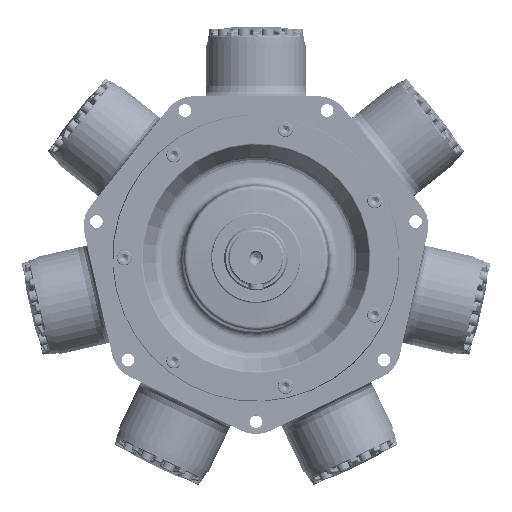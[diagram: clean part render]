
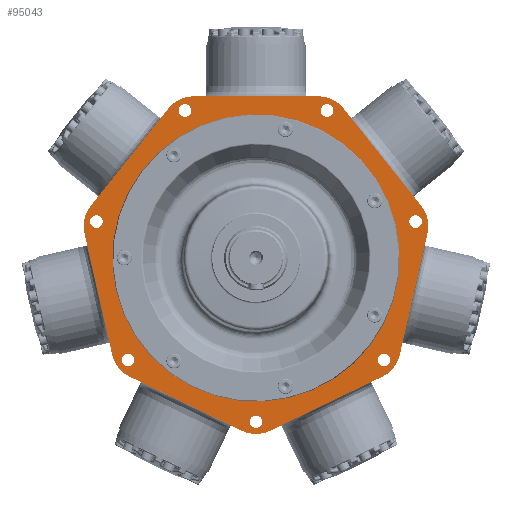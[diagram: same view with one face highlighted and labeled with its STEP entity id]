
A CAD part, top view. The second image highlights one B-rep face of the part: STEP entity #95043.
In plain terms, the highlighted planar face has unit normal (0, 0, 1).
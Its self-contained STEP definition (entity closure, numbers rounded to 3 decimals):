
#9211=FACE_BOUND('',#18440,.T.);
#9212=FACE_BOUND('',#18441,.T.);
#9213=FACE_BOUND('',#18442,.T.);
#9214=FACE_BOUND('',#18443,.T.);
#9215=FACE_BOUND('',#18444,.T.);
#9216=FACE_BOUND('',#18445,.T.);
#9217=FACE_BOUND('',#18446,.T.);
#9218=FACE_BOUND('',#18447,.T.);
#9539=PLANE('',#101121);
#12394=FACE_OUTER_BOUND('',#18439,.T.);
#18439=EDGE_LOOP('',(#60335,#60336,#60337,#60338,#60339,#60340,#60341,#60342,
#60343,#60344,#60345,#60346,#60347,#60348));
#18440=EDGE_LOOP('',(#60349));
#18441=EDGE_LOOP('',(#60350));
#18442=EDGE_LOOP('',(#60351));
#18443=EDGE_LOOP('',(#60352));
#18444=EDGE_LOOP('',(#60353));
#18445=EDGE_LOOP('',(#60354));
#18446=EDGE_LOOP('',(#60355));
#18447=EDGE_LOOP('',(#60356));
#24799=LINE('',#129394,#29279);
#24800=LINE('',#129398,#29280);
#24801=LINE('',#129402,#29281);
#24802=LINE('',#129406,#29282);
#24803=LINE('',#129410,#29283);
#24804=LINE('',#129414,#29284);
#24805=LINE('',#129418,#29285);
#29279=VECTOR('',#109047,10.);
#29280=VECTOR('',#109050,10.);
#29281=VECTOR('',#109053,10.);
#29282=VECTOR('',#109056,10.);
#29283=VECTOR('',#109059,10.);
#29284=VECTOR('',#109062,10.);
#29285=VECTOR('',#109065,10.);
#33752=CIRCLE('',#101122,50.8);
#33753=CIRCLE('',#101123,50.8);
#33754=CIRCLE('',#101124,50.8);
#33755=CIRCLE('',#101125,50.8);
#33756=CIRCLE('',#101126,50.8);
#33757=CIRCLE('',#101127,50.8);
#33758=CIRCLE('',#101128,50.8);
#33759=CIRCLE('',#101129,10.);
#33760=CIRCLE('',#101130,10.);
#33761=CIRCLE('',#101131,10.);
#33762=CIRCLE('',#101132,10.);
#33763=CIRCLE('',#101133,10.);
#33764=CIRCLE('',#101134,10.);
#33765=CIRCLE('',#101135,10.);
#33766=CIRCLE('',#101136,228.555);
#37441=VERTEX_POINT('',#129392);
#37442=VERTEX_POINT('',#129393);
#37443=VERTEX_POINT('',#129395);
#37444=VERTEX_POINT('',#129397);
#37445=VERTEX_POINT('',#129399);
#37446=VERTEX_POINT('',#129401);
#37447=VERTEX_POINT('',#129403);
#37448=VERTEX_POINT('',#129405);
#37449=VERTEX_POINT('',#129407);
#37450=VERTEX_POINT('',#129409);
#37451=VERTEX_POINT('',#129411);
#37452=VERTEX_POINT('',#129413);
#37453=VERTEX_POINT('',#129415);
#37454=VERTEX_POINT('',#129417);
#37455=VERTEX_POINT('',#129420);
#37456=VERTEX_POINT('',#129422);
#37457=VERTEX_POINT('',#129424);
#37458=VERTEX_POINT('',#129426);
#37459=VERTEX_POINT('',#129428);
#37460=VERTEX_POINT('',#129430);
#37461=VERTEX_POINT('',#129432);
#37462=VERTEX_POINT('',#129434);
#46018=EDGE_CURVE('',#37441,#37442,#24799,.T.);
#46019=EDGE_CURVE('',#37443,#37441,#33752,.T.);
#46020=EDGE_CURVE('',#37444,#37443,#24800,.T.);
#46021=EDGE_CURVE('',#37445,#37444,#33753,.T.);
#46022=EDGE_CURVE('',#37446,#37445,#24801,.T.);
#46023=EDGE_CURVE('',#37447,#37446,#33754,.T.);
#46024=EDGE_CURVE('',#37448,#37447,#24802,.T.);
#46025=EDGE_CURVE('',#37449,#37448,#33755,.T.);
#46026=EDGE_CURVE('',#37450,#37449,#24803,.T.);
#46027=EDGE_CURVE('',#37451,#37450,#33756,.T.);
#46028=EDGE_CURVE('',#37452,#37451,#24804,.T.);
#46029=EDGE_CURVE('',#37453,#37452,#33757,.T.);
#46030=EDGE_CURVE('',#37454,#37453,#24805,.T.);
#46031=EDGE_CURVE('',#37442,#37454,#33758,.T.);
#46032=EDGE_CURVE('',#37455,#37455,#33759,.T.);
#46033=EDGE_CURVE('',#37456,#37456,#33760,.T.);
#46034=EDGE_CURVE('',#37457,#37457,#33761,.T.);
#46035=EDGE_CURVE('',#37458,#37458,#33762,.T.);
#46036=EDGE_CURVE('',#37459,#37459,#33763,.T.);
#46037=EDGE_CURVE('',#37460,#37460,#33764,.T.);
#46038=EDGE_CURVE('',#37461,#37461,#33765,.T.);
#46039=EDGE_CURVE('',#37462,#37462,#33766,.T.);
#60335=ORIENTED_EDGE('',*,*,#46018,.F.);
#60336=ORIENTED_EDGE('',*,*,#46019,.F.);
#60337=ORIENTED_EDGE('',*,*,#46020,.F.);
#60338=ORIENTED_EDGE('',*,*,#46021,.F.);
#60339=ORIENTED_EDGE('',*,*,#46022,.F.);
#60340=ORIENTED_EDGE('',*,*,#46023,.F.);
#60341=ORIENTED_EDGE('',*,*,#46024,.F.);
#60342=ORIENTED_EDGE('',*,*,#46025,.F.);
#60343=ORIENTED_EDGE('',*,*,#46026,.F.);
#60344=ORIENTED_EDGE('',*,*,#46027,.F.);
#60345=ORIENTED_EDGE('',*,*,#46028,.F.);
#60346=ORIENTED_EDGE('',*,*,#46029,.F.);
#60347=ORIENTED_EDGE('',*,*,#46030,.F.);
#60348=ORIENTED_EDGE('',*,*,#46031,.F.);
#60349=ORIENTED_EDGE('',*,*,#46032,.T.);
#60350=ORIENTED_EDGE('',*,*,#46033,.T.);
#60351=ORIENTED_EDGE('',*,*,#46034,.T.);
#60352=ORIENTED_EDGE('',*,*,#46035,.T.);
#60353=ORIENTED_EDGE('',*,*,#46036,.T.);
#60354=ORIENTED_EDGE('',*,*,#46037,.T.);
#60355=ORIENTED_EDGE('',*,*,#46038,.T.);
#60356=ORIENTED_EDGE('',*,*,#46039,.F.);
#95043=ADVANCED_FACE('',(#12394,#9211,#9212,#9213,#9214,#9215,#9216,#9217,
#9218),#9539,.F.);
#101121=AXIS2_PLACEMENT_3D('',#129391,#109045,#109046);
#101122=AXIS2_PLACEMENT_3D('',#129396,#109048,#109049);
#101123=AXIS2_PLACEMENT_3D('',#129400,#109051,#109052);
#101124=AXIS2_PLACEMENT_3D('',#129404,#109054,#109055);
#101125=AXIS2_PLACEMENT_3D('',#129408,#109057,#109058);
#101126=AXIS2_PLACEMENT_3D('',#129412,#109060,#109061);
#101127=AXIS2_PLACEMENT_3D('',#129416,#109063,#109064);
#101128=AXIS2_PLACEMENT_3D('',#129419,#109066,#109067);
#101129=AXIS2_PLACEMENT_3D('',#129421,#109068,#109069);
#101130=AXIS2_PLACEMENT_3D('',#129423,#109070,#109071);
#101131=AXIS2_PLACEMENT_3D('',#129425,#109072,#109073);
#101132=AXIS2_PLACEMENT_3D('',#129427,#109074,#109075);
#101133=AXIS2_PLACEMENT_3D('',#129429,#109076,#109077);
#101134=AXIS2_PLACEMENT_3D('',#129431,#109078,#109079);
#101135=AXIS2_PLACEMENT_3D('',#129433,#109080,#109081);
#101136=AXIS2_PLACEMENT_3D('',#129435,#109082,#109083);
#109045=DIRECTION('center_axis',(0.,0.,-1.));
#109046=DIRECTION('ref_axis',(-1.,0.,0.));
#109047=DIRECTION('',(0.623,0.782,0.));
#109048=DIRECTION('center_axis',(0.,0.,-1.));
#109049=DIRECTION('ref_axis',(-0.975,-0.223,0.));
#109050=DIRECTION('',(-0.223,0.975,0.));
#109051=DIRECTION('center_axis',(0.,0.,-1.));
#109052=DIRECTION('ref_axis',(-0.434,-0.901,0.));
#109053=DIRECTION('',(-0.901,0.434,0.));
#109054=DIRECTION('center_axis',(0.,0.,-1.));
#109055=DIRECTION('ref_axis',(0.434,-0.901,0.));
#109056=DIRECTION('',(-0.901,-0.434,0.));
#109057=DIRECTION('center_axis',(0.,0.,-1.));
#109058=DIRECTION('ref_axis',(0.975,-0.223,0.));
#109059=DIRECTION('',(-0.223,-0.975,0.));
#109060=DIRECTION('center_axis',(0.,0.,-1.));
#109061=DIRECTION('ref_axis',(0.782,0.623,0.));
#109062=DIRECTION('',(0.623,-0.782,0.));
#109063=DIRECTION('center_axis',(0.,0.,-1.));
#109064=DIRECTION('ref_axis',(0.,1.,0.));
#109065=DIRECTION('',(1.,0.,0.));
#109066=DIRECTION('center_axis',(0.,0.,-1.));
#109067=DIRECTION('ref_axis',(-0.782,0.623,0.));
#109068=DIRECTION('center_axis',(0.,0.,-1.));
#109069=DIRECTION('ref_axis',(1.,0.,0.));
#109070=DIRECTION('center_axis',(0.,0.,-1.));
#109071=DIRECTION('ref_axis',(1.,0.,0.));
#109072=DIRECTION('center_axis',(0.,0.,-1.));
#109073=DIRECTION('ref_axis',(1.,0.,0.));
#109074=DIRECTION('center_axis',(0.,0.,-1.));
#109075=DIRECTION('ref_axis',(1.,0.,0.));
#109076=DIRECTION('center_axis',(0.,0.,-1.));
#109077=DIRECTION('ref_axis',(1.,0.,0.));
#109078=DIRECTION('center_axis',(0.,0.,-1.));
#109079=DIRECTION('ref_axis',(1.,0.,0.));
#109080=DIRECTION('center_axis',(0.,0.,-1.));
#109081=DIRECTION('ref_axis',(1.,0.,0.));
#109082=DIRECTION('center_axis',(0.,0.,
1.));
#109083=DIRECTION('ref_axis',(0.223,-0.975,0.));
#129391=CARTESIAN_POINT('Origin',(0.,439.494,-6.59));
#129392=CARTESIAN_POINT('',(-263.033,82.644,-6.59));
#129393=CARTESIAN_POINT('',(-139.102,238.048,-6.59));
#129394=CARTESIAN_POINT('',(-62.966,333.52,-6.59));
#129395=CARTESIAN_POINT('',(-272.842,39.666,-6.59));
#129396=CARTESIAN_POINT('Origin',(-223.316,50.97,-6.59));
#129397=CARTESIAN_POINT('',(-228.612,-154.12,-6.59));
#129398=CARTESIAN_POINT('',(-309.457,200.086,-6.59));
#129399=CARTESIAN_POINT('',(-201.127,-188.585,-6.59));
#129400=CARTESIAN_POINT('Origin',(-179.086,-142.816,-6.59));
#129401=CARTESIAN_POINT('',(-22.041,-274.828,-6.59));
#129402=CARTESIAN_POINT('',(-242.258,-168.777,-6.59));
#129403=CARTESIAN_POINT('',(22.041,-274.828,-6.59));
#129404=CARTESIAN_POINT('Origin',(0.,-229.059,
-6.59));
#129405=CARTESIAN_POINT('',(201.127,-188.585,-6.59));
#129406=CARTESIAN_POINT('',(152.715,-211.899,-6.59));
#129407=CARTESIAN_POINT('',(228.612,-154.12,-6.59));
#129408=CARTESIAN_POINT('Origin',(179.086,-142.816,-6.59));
#129409=CARTESIAN_POINT('',(272.842,39.666,-6.59));
#129410=CARTESIAN_POINT('',(287.342,103.193,-6.59));
#129411=CARTESIAN_POINT('',(263.033,82.644,-6.59));
#129412=CARTESIAN_POINT('Origin',(223.316,50.97,-6.59));
#129413=CARTESIAN_POINT('',(139.102,238.048,-6.59));
#129414=CARTESIAN_POINT('',(124.931,255.818,-6.59));
#129415=CARTESIAN_POINT('',(99.385,257.175,-6.59));
#129416=CARTESIAN_POINT('Origin',(99.385,206.375,-6.59));
#129417=CARTESIAN_POINT('',(-99.385,257.175,-6.59));
#129418=CARTESIAN_POINT('',(49.692,257.175,-6.59));
#129419=CARTESIAN_POINT('Origin',(-99.385,206.375,-6.59));
#129420=CARTESIAN_POINT('',(-10.,-260.35,-6.59));
#129421=CARTESIAN_POINT('Origin',(0.,-260.35,-6.59));
#129422=CARTESIAN_POINT('',(243.822,57.933,-6.59));
#129423=CARTESIAN_POINT('Origin',(253.822,57.933,-6.59));
#129424=CARTESIAN_POINT('',(-263.822,57.933,-6.59));
#129425=CARTESIAN_POINT('Origin',(-253.822,57.933,-6.59));
#129426=CARTESIAN_POINT('',(193.55,-162.326,-6.59));
#129427=CARTESIAN_POINT('Origin',(203.55,-162.326,-6.59));
#129428=CARTESIAN_POINT('',(102.962,234.567,-6.59));
#129429=CARTESIAN_POINT('Origin',(112.962,234.567,-6.59));
#129430=CARTESIAN_POINT('',(-122.962,234.567,-6.59));
#129431=CARTESIAN_POINT('Origin',(-112.962,234.567,-6.59));
#129432=CARTESIAN_POINT('',(-213.55,-162.326,-6.59));
#129433=CARTESIAN_POINT('Origin',(-203.55,-162.326,-6.59));
#129434=CARTESIAN_POINT('',(222.825,50.858,-6.59));
#129435=CARTESIAN_POINT('Origin',(0.,0.,
-6.59));
